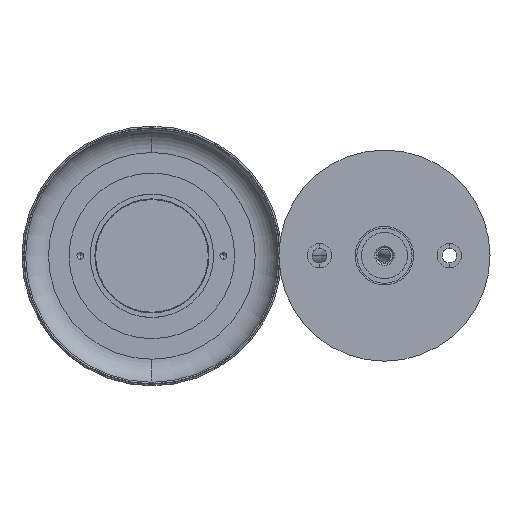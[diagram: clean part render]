
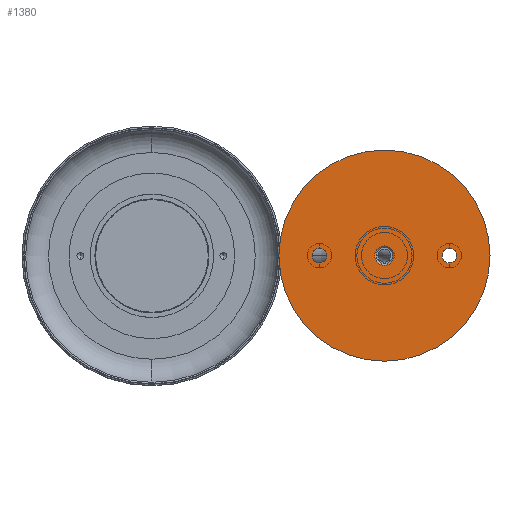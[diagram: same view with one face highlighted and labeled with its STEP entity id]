
A CAD part, front view. The second image highlights one B-rep face of the part: STEP entity #1380.
In plain terms, the highlighted planar face has unit normal (0, -1, 0).
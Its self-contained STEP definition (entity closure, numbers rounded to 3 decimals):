
#42 = CARTESIAN_POINT ( 'NONE',  ( 20., 0., 2.25 ) ) ;
#62 = CARTESIAN_POINT ( 'NONE',  ( -20., 0., -2.25 ) ) ;
#219 = DIRECTION ( 'NONE',  ( 0., 0., 1. ) ) ;
#289 = CARTESIAN_POINT ( 'NONE',  ( -20., 0., 0. ) ) ;
#311 = EDGE_LOOP ( 'NONE', ( #6038, #2158 ) ) ;
#402 = VERTEX_POINT ( 'NONE', #5436 ) ;
#413 = CARTESIAN_POINT ( 'NONE',  ( 0., 0., 0. ) ) ;
#439 = EDGE_CURVE ( 'NONE', #6024, #6384, #6540, .T. ) ;
#453 = DIRECTION ( 'NONE',  ( 0., -1., 0. ) ) ;
#507 = DIRECTION ( 'NONE',  ( 0., 0., -1. ) ) ;
#591 = CARTESIAN_POINT ( 'NONE',  ( 20., 0., -2.25 ) ) ;
#654 = DIRECTION ( 'NONE',  ( 0., 1., 0. ) ) ;
#716 = CIRCLE ( 'NONE', #2424, 32.5 ) ;
#785 = ORIENTED_EDGE ( 'NONE', *, *, #2148, .T. ) ;
#897 = DIRECTION ( 'NONE',  ( 0., 1., 0. ) ) ;
#989 = DIRECTION ( 'NONE',  ( 0., 0., -1. ) ) ;
#1033 = DIRECTION ( 'NONE',  ( 0., 1., 0. ) ) ;
#1040 = DIRECTION ( 'NONE',  ( 0., -1., 0. ) ) ;
#1188 = FACE_BOUND ( 'NONE', #2246, .T. ) ;
#1380 = ADVANCED_FACE ( 'NONE', ( #1188, #2374, #1831, #2286 ), #3415, .T. ) ;
#1587 = DIRECTION ( 'NONE',  ( 0., -1., 0. ) ) ;
#1735 = CARTESIAN_POINT ( 'NONE',  ( 0., 0., -3. ) ) ;
#1784 = AXIS2_PLACEMENT_3D ( 'NONE', #6314, #453, #4656 ) ;
#1831 = FACE_BOUND ( 'NONE', #5760, .T. ) ;
#1985 = EDGE_CURVE ( 'NONE', #2994, #6969, #5817, .T. ) ;
#2078 = DIRECTION ( 'NONE',  ( 0., 1., 0. ) ) ;
#2098 = DIRECTION ( 'NONE',  ( 0., 0., -1. ) ) ;
#2148 = EDGE_CURVE ( 'NONE', #3629, #6375, #4517, .T. ) ;
#2158 = ORIENTED_EDGE ( 'NONE', *, *, #6544, .T. ) ;
#2246 = EDGE_LOOP ( 'NONE', ( #4923, #6374 ) ) ;
#2286 = FACE_OUTER_BOUND ( 'NONE', #3703, .T. ) ;
#2365 = CARTESIAN_POINT ( 'NONE',  ( -20., 0., 2.25 ) ) ;
#2374 = FACE_BOUND ( 'NONE', #311, .T. ) ;
#2413 = ORIENTED_EDGE ( 'NONE', *, *, #5321, .T. ) ;
#2424 = AXIS2_PLACEMENT_3D ( 'NONE', #6876, #1587, #2098 ) ;
#2550 = CIRCLE ( 'NONE', #5358, 3. ) ;
#2770 = AXIS2_PLACEMENT_3D ( 'NONE', #6575, #6619, #219 ) ;
#2965 = AXIS2_PLACEMENT_3D ( 'NONE', #3846, #897, #5034 ) ;
#2966 = VERTEX_POINT ( 'NONE', #7163 ) ;
#2994 = VERTEX_POINT ( 'NONE', #2365 ) ;
#3244 = DIRECTION ( 'NONE',  ( 0., 0., 1. ) ) ;
#3290 = CIRCLE ( 'NONE', #1784, 32.5 ) ;
#3415 = PLANE ( 'NONE',  #5465 ) ;
#3560 = AXIS2_PLACEMENT_3D ( 'NONE', #5037, #2078, #6817 ) ;
#3629 = VERTEX_POINT ( 'NONE', #42 ) ;
#3703 = EDGE_LOOP ( 'NONE', ( #2413, #5942 ) ) ;
#3846 = CARTESIAN_POINT ( 'NONE',  ( 20., 0., 0. ) ) ;
#3981 = CARTESIAN_POINT ( 'NONE',  ( 0., 0., 0. ) ) ;
#4471 = AXIS2_PLACEMENT_3D ( 'NONE', #289, #5012, #3244 ) ;
#4517 = CIRCLE ( 'NONE', #3560, 2.25 ) ;
#4656 = DIRECTION ( 'NONE',  ( 0., 0., -1. ) ) ;
#4719 = CARTESIAN_POINT ( 'NONE',  ( 0., 0., 3. ) ) ;
#4874 = EDGE_CURVE ( 'NONE', #6384, #6024, #2550, .T. ) ;
#4917 = EDGE_CURVE ( 'NONE', #402, #2966, #3290, .T. ) ;
#4923 = ORIENTED_EDGE ( 'NONE', *, *, #439, .T. ) ;
#5012 = DIRECTION ( 'NONE',  ( 0., 1., 0. ) ) ;
#5034 = DIRECTION ( 'NONE',  ( 0., 0., 1. ) ) ;
#5037 = CARTESIAN_POINT ( 'NONE',  ( 20., 0., 0. ) ) ;
#5321 = EDGE_CURVE ( 'NONE', #2966, #402, #716, .T. ) ;
#5336 = EDGE_CURVE ( 'NONE', #6375, #3629, #6605, .T. ) ;
#5358 = AXIS2_PLACEMENT_3D ( 'NONE', #3981, #1033, #507 ) ;
#5363 = AXIS2_PLACEMENT_3D ( 'NONE', #6573, #654, #6037 ) ;
#5436 = CARTESIAN_POINT ( 'NONE',  ( 0., 0., 32.5 ) ) ;
#5465 = AXIS2_PLACEMENT_3D ( 'NONE', #413, #1040, #989 ) ;
#5760 = EDGE_LOOP ( 'NONE', ( #785, #7433 ) ) ;
#5817 = CIRCLE ( 'NONE', #4471, 2.25 ) ;
#5942 = ORIENTED_EDGE ( 'NONE', *, *, #4917, .T. ) ;
#6024 = VERTEX_POINT ( 'NONE', #1735 ) ;
#6037 = DIRECTION ( 'NONE',  ( 0., 0., -1. ) ) ;
#6038 = ORIENTED_EDGE ( 'NONE', *, *, #1985, .T. ) ;
#6227 = CIRCLE ( 'NONE', #2770, 2.25 ) ;
#6314 = CARTESIAN_POINT ( 'NONE',  ( 0., 0., 0. ) ) ;
#6374 = ORIENTED_EDGE ( 'NONE', *, *, #4874, .T. ) ;
#6375 = VERTEX_POINT ( 'NONE', #591 ) ;
#6384 = VERTEX_POINT ( 'NONE', #4719 ) ;
#6540 = CIRCLE ( 'NONE', #5363, 3. ) ;
#6544 = EDGE_CURVE ( 'NONE', #6969, #2994, #6227, .T. ) ;
#6573 = CARTESIAN_POINT ( 'NONE',  ( 0., 0., 0. ) ) ;
#6575 = CARTESIAN_POINT ( 'NONE',  ( -20., 0., 0. ) ) ;
#6605 = CIRCLE ( 'NONE', #2965, 2.25 ) ;
#6619 = DIRECTION ( 'NONE',  ( 0., 1., 0. ) ) ;
#6817 = DIRECTION ( 'NONE',  ( 0., 0., 1. ) ) ;
#6876 = CARTESIAN_POINT ( 'NONE',  ( 0., 0., 0. ) ) ;
#6969 = VERTEX_POINT ( 'NONE', #62 ) ;
#7163 = CARTESIAN_POINT ( 'NONE',  ( 0., 0., -32.5 ) ) ;
#7433 = ORIENTED_EDGE ( 'NONE', *, *, #5336, .T. ) ;
